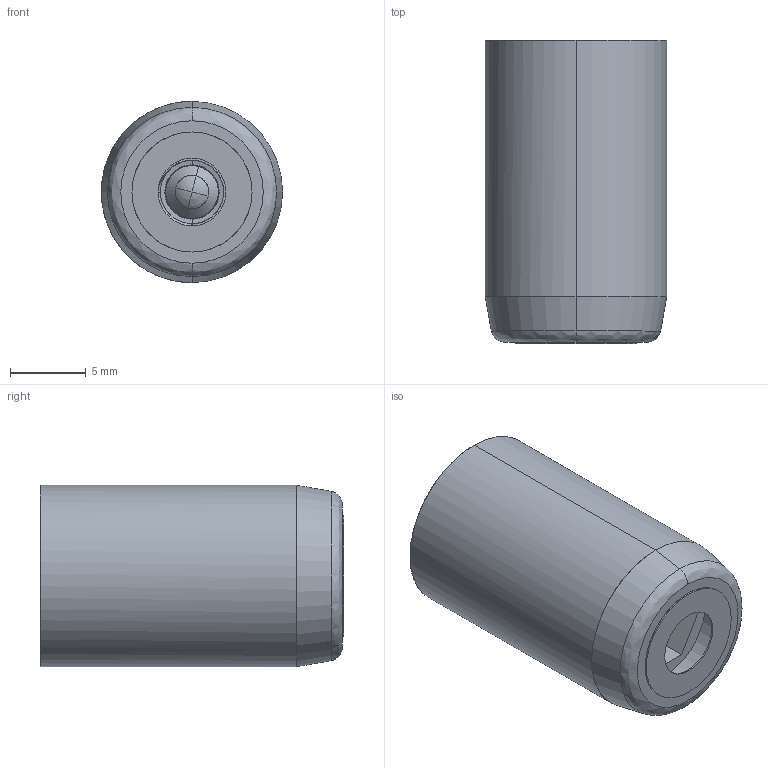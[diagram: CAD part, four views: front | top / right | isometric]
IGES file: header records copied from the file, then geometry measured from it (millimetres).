
Start section: START RECORD GO HERE.
Global section: file name: fa126708-21.igs; native system: DASSAULT SYSTEMES CATIA V5 R20 - www.3ds.com; preprocessor: CATIA Version 5 Release 20 ; author: Utente; organization: NB04-ASUS; date: 20201108.083610; units: millimetre
Bounding box: 12 x 20.1 x 12 mm (x, y, z)
Surface area: 1938.5 mm2 (no closed solid volume)
Topology: 0 solids, 0 shells, 382 faces, 1919 edges, 1918 vertices
Faces by surface type: bspline 205, plane 119, revolution 58
